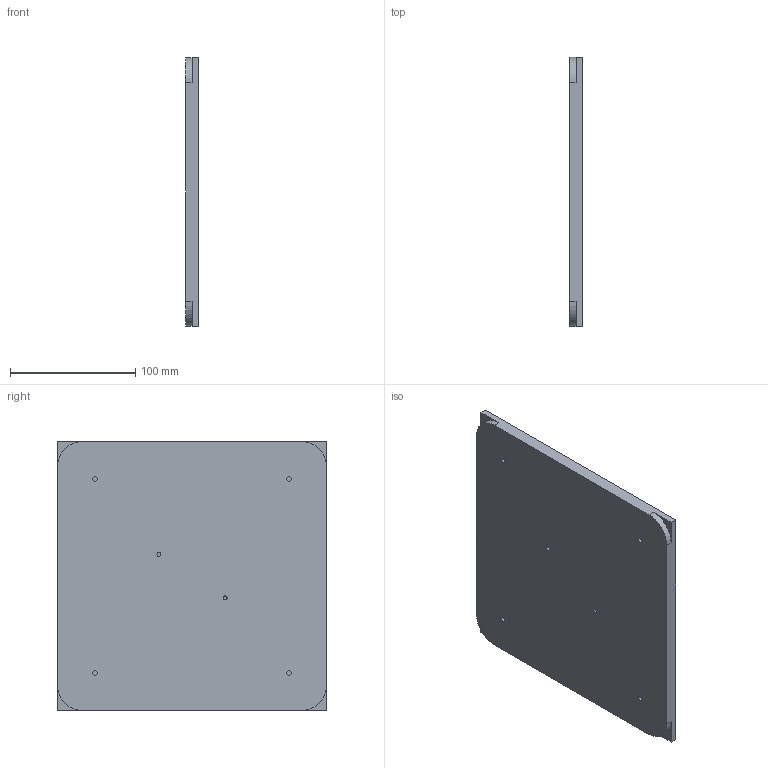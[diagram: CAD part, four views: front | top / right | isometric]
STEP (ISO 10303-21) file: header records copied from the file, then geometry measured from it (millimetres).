
FILE_DESCRIPTION(('CATIA V5 STEP Exchange'),'2;1');
FILE_NAME('C:\Users\Administrator\Desktop\Part1.stp','2021-09-10T07:16:18+00:00',('none'),('none'),'CATIA Version 5 Release 20 GA (IN-10)','CATIA V5 STEP AP203','none');
FILE_SCHEMA(('CONFIG_CONTROL_DESIGN'));
Length unit declared in the file: millimetre
Products named in the file (1): Part1
Bounding box: 10 x 215 x 215 mm (x, y, z)
Volume: 460270.1 mm3; surface area: 101192.5 mm2
Topology: 1 solids, 1 shells, 32 faces, 72 edges, 48 vertices
Faces by surface type: plane 16, cylinder 16
Entity records: 843 total; most frequent: ORIENTED_EDGE 144, CARTESIAN_POINT 138, DIRECTION 106, EDGE_CURVE 72, AXIS2_PLACEMENT_3D 50, VERTEX_POINT 48, VECTOR 40, LINE 40
